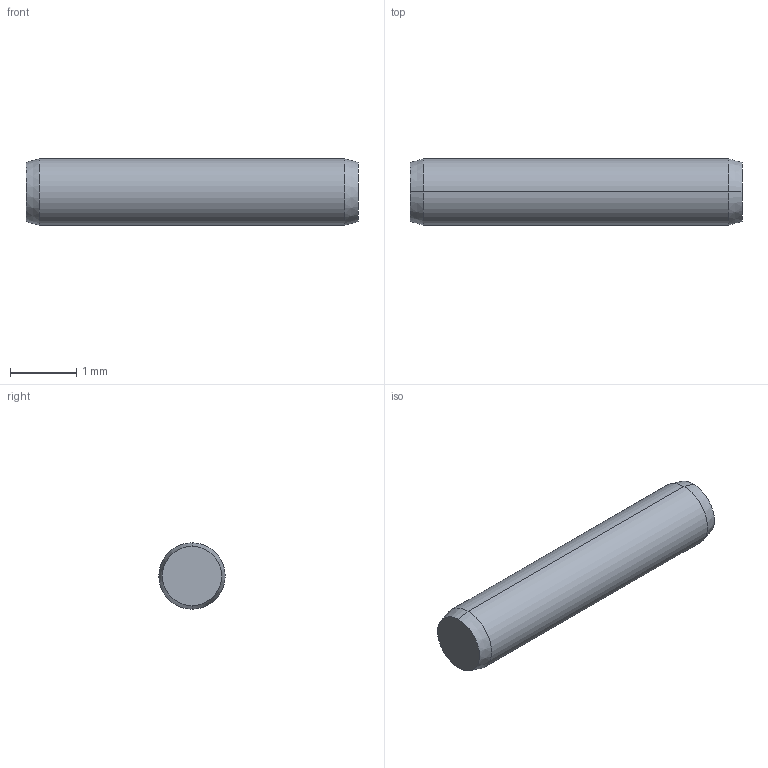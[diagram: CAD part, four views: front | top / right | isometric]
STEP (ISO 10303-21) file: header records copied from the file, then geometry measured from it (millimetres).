
FILE_DESCRIPTION (( 'STEP AP203' ), '1' );
FILE_NAME ('P1206.010-005.step', '2017-06-14T07:50:18', ( 'User' ), ( '' ), 'SwSTEP 2.0', 'SolidWorks 2009', '' );
FILE_SCHEMA (( 'CONFIG_CONTROL_DESIGN' ));
Length unit declared in the file: millimetre
Products named in the file (1): P1206.010-005
Bounding box: 5 x 1 x 1 mm (x, y, z)
Volume: 3.9 mm3; surface area: 16.9 mm2
Topology: 1 solids, 1 shells, 8 faces, 14 edges, 8 vertices
Faces by surface type: cone 4, cylinder 2, plane 2
Entity records: 271 total; most frequent: DIRECTION 40, CARTESIAN_POINT 31, ORIENTED_EDGE 28, AXIS2_PLACEMENT_3D 17, EDGE_CURVE 14, VERTEX_POINT 8, EDGE_LOOP 8, ADVANCED_FACE 8
